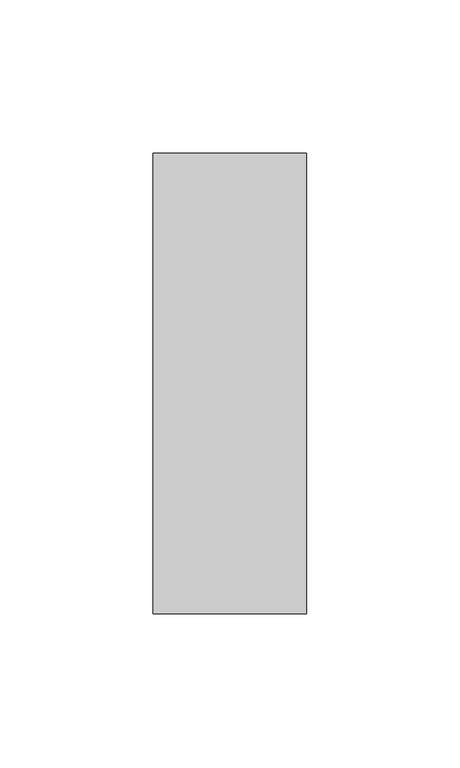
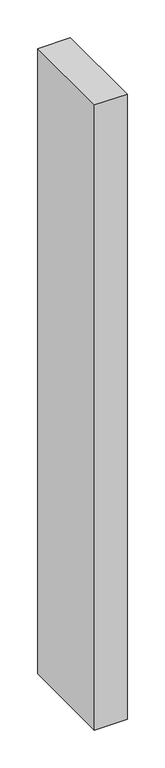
"""IFC4 building model written with IfcOpenShell, lengths in millimetres: member geometry, Прямоугольный импост : 50 x 150 мм."""

from ifc_helpers import new_model, si_unit, frame, origin, place, context, project, spatial, polyline, outline, extrude, source, transform, mapped, element, save


def member_7160e9af(model_context):
    return source(origin(), model_context, "Body", "SweptSolid", [
        extrude(outline(polyline([(25.0, 75.0), (25.0, -75.0), (-25.0, -75.0), (-25.0, 75.0), (25.0, 75.0)])), frame((0.0, 0.0, -1010.9267241), z_axis=(0.0, 0.0, 1.0), x_axis=(1.0, 0.0, 0.0)), (0.0, 0.0, 1.0), 1010.9267241),
    ])


if __name__ == "__main__":
    model = new_model("IFC4")
    model_context = context("Model", 3, world=origin())
    ifc_project = project(units=[si_unit("LENGTHUNIT", "METRE", prefix="MILLI")], contexts=[model_context])
    site = spatial("IfcSite", under=ifc_project)
    building = spatial("IfcBuilding", under=site)
    placement = place(None, origin())
    member_shape = member_7160e9af(model_context)
    element("IfcMember", 1, ObjectType="Прямоугольный импост : 50 x 150 мм", at=placement, inside=building, context=model_context, shape_type="MappedRepresentation", body=[
        mapped(member_shape, transform((0.0, 0.0, 0.0), x_axis=(1.0, 0.0, 0.0), y_axis=(0.0, 1.0, 0.0), z_axis=(0.0, 0.0, 1.0))),
    ])
    save(model, "model.ifc")
